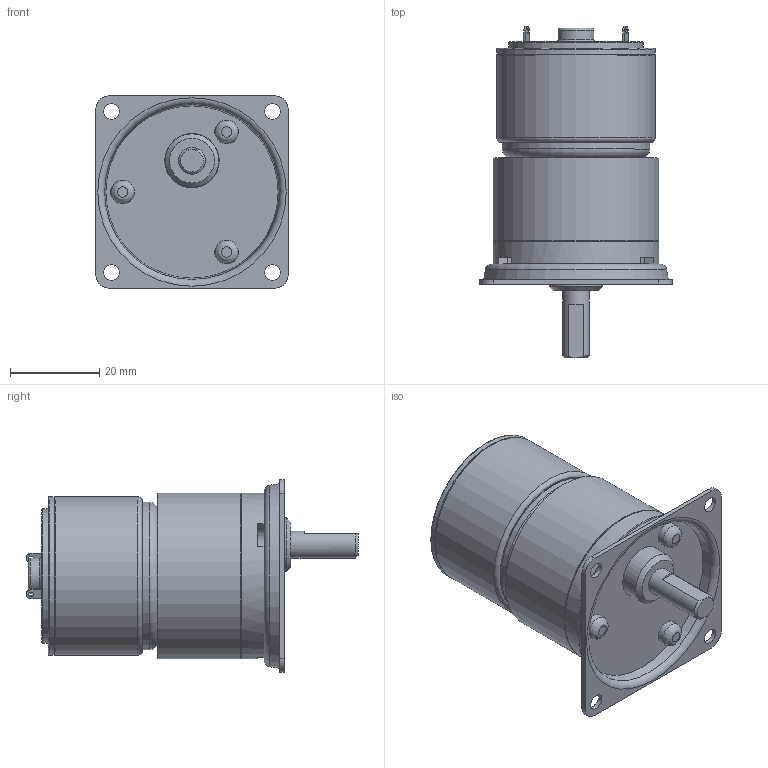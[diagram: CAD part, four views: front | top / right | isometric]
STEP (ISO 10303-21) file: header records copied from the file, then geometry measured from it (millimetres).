
FILE_DESCRIPTION((''),'2;1');
FILE_NAME('C:\Documents and Settings\SSEGAWA\デスクトップ\TP-3526E-PKS-3.STP','2013-07-09T16:55:03',('SSEGAWA'),(''),'Autodesk Inventor 2010','Autodesk Inventor 2010','');
FILE_SCHEMA(('CONFIG_CONTROL_DESIGN'));
Length unit declared in the file: millimetre
Products named in the file (5): tp_3526e_pks_3; pks_3; ks_3; □43; tp_3526e
Assembly tree (4 placements, depth 3):
  tp_3526e_pks_3
    pks_3
      ks_3
      □43
    tp_3526e
Bounding box: 43 x 74.2 x 43 mm (x, y, z)
Volume: 53168.8 mm3; surface area: 15259.1 mm2
Topology: 4 solids, 4 shells, 121 faces, 271 edges, 178 vertices
Faces by surface type: plane 49, cylinder 31, bspline 29, torus 7, cone 5
Full cylindrical faces by diameter (mm): 1.1 x1, 2 x1, 2.4 x1, 5 x1, 5.3 x3, 6 x1, 8 x1, 10 x1, 12 x1, 12.2 x1, 30 x1, 33 x1, 35 x1, 35.4 x2, 36.6 x1, 37 x2
Entity records: 3550 total; most frequent: CARTESIAN_POINT 1122, DIRECTION 499, ORIENTED_EDGE 366, AXIS2_PLACEMENT_3D 217, EDGE_LOOP 215, EDGE_CURVE 183, VERTEX_POINT 150, FACE_OUTER_BOUND 121
